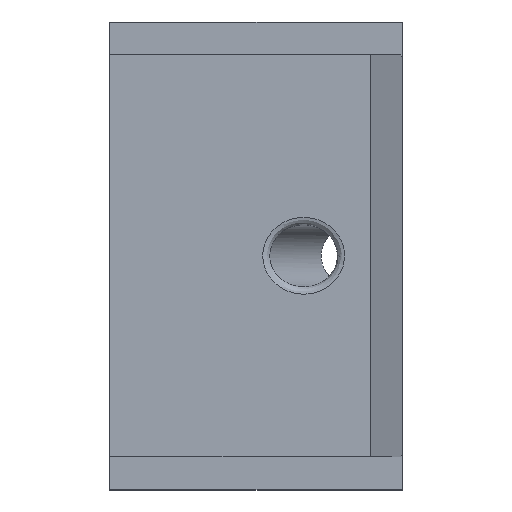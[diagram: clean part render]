
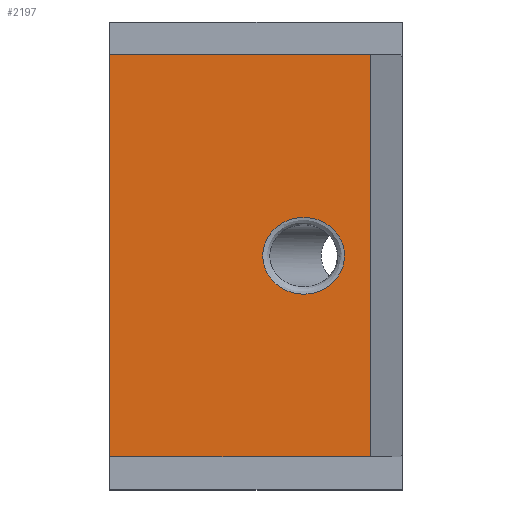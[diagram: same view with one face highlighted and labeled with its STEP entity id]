
A CAD part, top view. The second image highlights one B-rep face of the part: STEP entity #2197.
In plain terms, the highlighted planar face has unit normal (0, 0, 1).
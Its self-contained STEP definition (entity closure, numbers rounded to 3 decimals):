
#136 = CARTESIAN_POINT ( 'NONE',  ( 35.632, 27.5, 20. ) ) ;
#591 = VECTOR ( 'NONE', #7372, 1000. ) ;
#729 = CARTESIAN_POINT ( 'NONE',  ( 35.632, -27.5, 20. ) ) ;
#1317 = EDGE_CURVE ( 'NONE', #8142, #7200, #3963, .T. ) ;
#1679 = CARTESIAN_POINT ( 'NONE',  ( 32.111, 0., 20. ) ) ;
#2034 = EDGE_CURVE ( 'NONE', #7062, #10598, #9732, .T. ) ;
#2062 = EDGE_LOOP ( 'NONE', ( #5226 ) ) ;
#2080 = AXIS2_PLACEMENT_3D ( 'NONE', #8151, #3065, #10725 ) ;
#2197 = ADVANCED_FACE ( 'NONE', ( #7370, #5587 ), #5807, .F. ) ;
#2238 = EDGE_LOOP ( 'NONE', ( #9044, #7864, #8363, #4380 ) ) ;
#2376 = VECTOR ( 'NONE', #6162, 1000. ) ;
#2901 = DIRECTION ( 'NONE',  ( 0., -1., 0. ) ) ;
#3065 = DIRECTION ( 'NONE',  ( 0., 0., -1. ) ) ;
#3963 = LINE ( 'NONE', #10566, #10117 ) ;
#4151 = CARTESIAN_POINT ( 'NONE',  ( 32.111, 0., 20. ) ) ;
#4380 = ORIENTED_EDGE ( 'NONE', *, *, #1317, .T. ) ;
#4730 = CARTESIAN_POINT ( 'NONE',  ( 0., -27.5, 20. ) ) ;
#4811 = EDGE_CURVE ( 'NONE', #7200, #10598, #7318, .T. ) ;
#5226 = ORIENTED_EDGE ( 'NONE', *, *, #7503, .T. ) ;
#5318 = DIRECTION ( 'NONE',  ( 0., -1., 0. ) ) ;
#5587 = FACE_OUTER_BOUND ( 'NONE', #2238, .T. ) ;
#5597 = VERTEX_POINT ( 'NONE', #8216 ) ;
#5807 = PLANE ( 'NONE',  #2080 ) ;
#5891 = CARTESIAN_POINT ( 'NONE',  ( 32.111, -10.5, 20. ) ) ;
#6162 = DIRECTION ( 'NONE',  ( 1., 0., 0. ) ) ;
#6367 = CARTESIAN_POINT ( 'NONE',  ( 35.632, 27.5, 20. ) ) ;
#6609 = CARTESIAN_POINT ( 'NONE',  ( 32.111, 10.5, 20. ) ) ;
#7062 = VERTEX_POINT ( 'NONE', #136 ) ;
#7200 = VERTEX_POINT ( 'NONE', #4730 ) ;
#7318 = LINE ( 'NONE', #8264, #591 ) ;
#7370 = FACE_BOUND ( 'NONE', #2062, .T. ) ;
#7372 = DIRECTION ( 'NONE',  ( 1., 0., 0. ) ) ;
#7503 = EDGE_CURVE ( 'NONE', #5597, #5597, #8956, .T. ) ;
#7534 = CARTESIAN_POINT ( 'NONE',  ( 0., 27.5, 20. ) ) ;
#7780 = LINE ( 'NONE', #8790, #2376 ) ;
#7864 = ORIENTED_EDGE ( 'NONE', *, *, #2034, .F. ) ;
#7974 = VECTOR ( 'NONE', #5318, 1000. ) ;
#8142 = VERTEX_POINT ( 'NONE', #7534 ) ;
#8151 = CARTESIAN_POINT ( 'NONE',  ( 0., 27.5, 20. ) ) ;
#8216 = CARTESIAN_POINT ( 'NONE',  ( 32.111, 0., 20. ) ) ;
#8264 = CARTESIAN_POINT ( 'NONE',  ( 0., -27.5, 20. ) ) ;
#8363 = ORIENTED_EDGE ( 'NONE', *, *, #10957, .F. ) ;
#8790 = CARTESIAN_POINT ( 'NONE',  ( 0., 27.5, 20. ) ) ;
#8956 =( BOUNDED_CURVE ( )  B_SPLINE_CURVE ( 3, ( #4151, #5891, #10967, #10192, #9362, #6609, #1679 ),
 .UNSPECIFIED., .T., .T. ) 
 B_SPLINE_CURVE_WITH_KNOTS ( ( 4, 3, 4 ),
 ( 0., 3.142, 6.283 ),
 .UNSPECIFIED. ) 
 CURVE ( )  GEOMETRIC_REPRESENTATION_ITEM ( )  RATIONAL_B_SPLINE_CURVE ( ( 1., 0.333, 0.333, 1., 0.333, 0.333, 1. ) ) 
 REPRESENTATION_ITEM ( '' )  );
#9044 = ORIENTED_EDGE ( 'NONE', *, *, #4811, .T. ) ;
#9362 = CARTESIAN_POINT ( 'NONE',  ( 20.937, 10.5, 20. ) ) ;
#9732 = LINE ( 'NONE', #6367, #7974 ) ;
#10117 = VECTOR ( 'NONE', #2901, 1000. ) ;
#10192 = CARTESIAN_POINT ( 'NONE',  ( 20.937, 0., 20. ) ) ;
#10566 = CARTESIAN_POINT ( 'NONE',  ( 0., 27.5, 20. ) ) ;
#10598 = VERTEX_POINT ( 'NONE', #729 ) ;
#10725 = DIRECTION ( 'NONE',  ( -1., 0., 0. ) ) ;
#10957 = EDGE_CURVE ( 'NONE', #8142, #7062, #7780, .T. ) ;
#10967 = CARTESIAN_POINT ( 'NONE',  ( 20.937, -10.5, 20. ) ) ;
